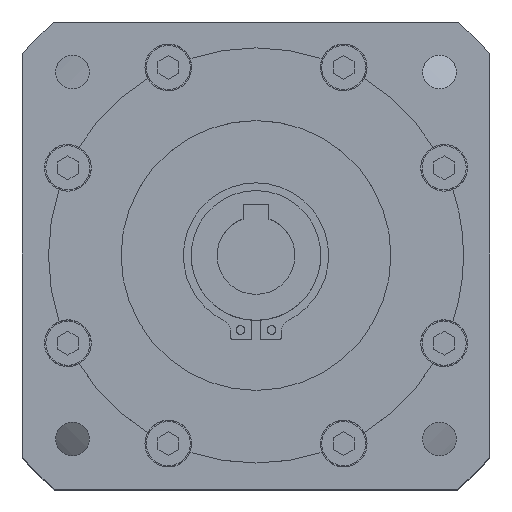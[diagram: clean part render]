
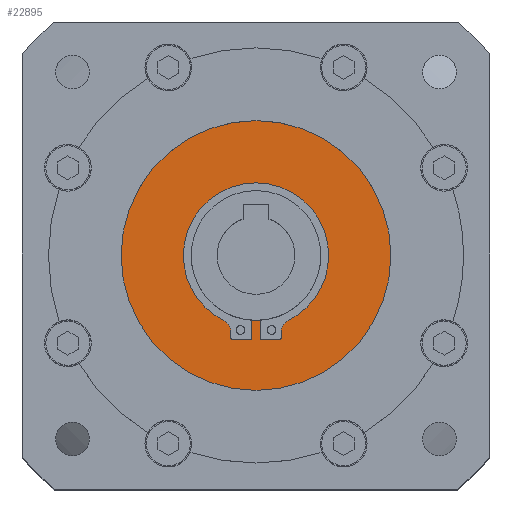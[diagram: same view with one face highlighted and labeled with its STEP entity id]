
A CAD part, top view. The second image highlights one B-rep face of the part: STEP entity #22895.
In plain terms, the highlighted planar face has unit normal (0, 0, 1).
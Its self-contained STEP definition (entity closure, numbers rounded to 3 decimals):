
#430 = FACE_BOUND ( 'NONE', #25090, .T. ) ;
#490 = CARTESIAN_POINT ( 'NONE',  ( -4.35, -16.271, -2.5 ) ) ;
#548 = VERTEX_POINT ( 'NONE', #15580 ) ;
#1082 = VERTEX_POINT ( 'NONE', #490 ) ;
#1635 = CARTESIAN_POINT ( 'NONE',  ( 0., 0., -2.5 ) ) ;
#1651 = CARTESIAN_POINT ( 'NONE',  ( 0.85, -16.271, -2.5 ) ) ;
#2053 = CARTESIAN_POINT ( 'NONE',  ( -4.85, -15.771, -2.5 ) ) ;
#2810 = ORIENTED_EDGE ( 'NONE', *, *, #15128, .F. ) ;
#2943 = CIRCLE ( 'NONE', #13542, 0.5 ) ;
#2988 = LINE ( 'NONE', #37324, #19984 ) ;
#3011 = VERTEX_POINT ( 'NONE', #3476 ) ;
#3012 = VECTOR ( 'NONE', #35305, 1000. ) ;
#3289 = CARTESIAN_POINT ( 'NONE',  ( -4.85, 0., -2.5 ) ) ;
#3476 = CARTESIAN_POINT ( 'NONE',  ( 26., 0., -2.5 ) ) ;
#4759 = LINE ( 'NONE', #15076, #39665 ) ;
#5053 = ORIENTED_EDGE ( 'NONE', *, *, #12363, .F. ) ;
#5058 = DIRECTION ( 'NONE',  ( -1., 0., 0. ) ) ;
#5681 = ORIENTED_EDGE ( 'NONE', *, *, #41594, .F. ) ;
#5701 = AXIS2_PLACEMENT_3D ( 'NONE', #37270, #17013, #40588 ) ;
#5704 = VECTOR ( 'NONE', #43348, 1000. ) ;
#5919 = CIRCLE ( 'NONE', #15960, 26. ) ;
#5961 = VERTEX_POINT ( 'NONE', #1651 ) ;
#5966 = ORIENTED_EDGE ( 'NONE', *, *, #37074, .F. ) ;
#7073 = VERTEX_POINT ( 'NONE', #38250 ) ;
#7420 = DIRECTION ( 'NONE',  ( 0., -1., 0. ) ) ;
#7440 = AXIS2_PLACEMENT_3D ( 'NONE', #38447, #18231, #41738 ) ;
#7805 = LINE ( 'NONE', #19714, #5704 ) ;
#7864 = CARTESIAN_POINT ( 'NONE',  ( 0., 0., -2.5 ) ) ;
#8188 = CIRCLE ( 'NONE', #43594, 12.5 ) ;
#8478 = CARTESIAN_POINT ( 'NONE',  ( 4.85, -14.773, -2.5 ) ) ;
#9015 = CIRCLE ( 'NONE', #40116, 26. ) ;
#11041 = CIRCLE ( 'NONE', #42052, 14. ) ;
#11117 = EDGE_CURVE ( 'NONE', #3011, #26673, #5919, .T. ) ;
#11272 = DIRECTION ( 'NONE',  ( 1., 0., 0. ) ) ;
#11501 = DIRECTION ( 'NONE',  ( 0., 0., -1. ) ) ;
#11892 = CARTESIAN_POINT ( 'NONE',  ( 4.85, 0., -2.5 ) ) ;
#12363 = EDGE_CURVE ( 'NONE', #7073, #26286, #21208, .T. ) ;
#12642 = CIRCLE ( 'NONE', #22548, 2.5 ) ;
#12977 = CIRCLE ( 'NONE', #15975, 14. ) ;
#13542 = AXIS2_PLACEMENT_3D ( 'NONE', #18082, #18070, #18019 ) ;
#14570 = VERTEX_POINT ( 'NONE', #36910 ) ;
#14953 = ORIENTED_EDGE ( 'NONE', *, *, #28900, .F. ) ;
#15076 = CARTESIAN_POINT ( 'NONE',  ( 0.85, 0., -2.5 ) ) ;
#15128 = EDGE_CURVE ( 'NONE', #18333, #548, #12642, .T. ) ;
#15580 = CARTESIAN_POINT ( 'NONE',  ( 6.236, -12.534, -2.5 ) ) ;
#15960 = AXIS2_PLACEMENT_3D ( 'NONE', #21024, #20980, #20955 ) ;
#15975 = AXIS2_PLACEMENT_3D ( 'NONE', #1635, #25374, #5058 ) ;
#16390 = DIRECTION ( 'NONE',  ( 0., 0., 1. ) ) ;
#16495 = CARTESIAN_POINT ( 'NONE',  ( 0., -16.271, -2.5 ) ) ;
#16680 = DIRECTION ( 'NONE',  ( 1., 0., 0. ) ) ;
#16932 = EDGE_CURVE ( 'NONE', #5961, #43699, #2988, .T. ) ;
#16941 = CARTESIAN_POINT ( 'NONE',  ( 14., 0., -2.5 ) ) ;
#17013 = DIRECTION ( 'NONE',  ( 0., 0., 1. ) ) ;
#17768 = EDGE_CURVE ( 'NONE', #43699, #14570, #2943, .T. ) ;
#17885 = EDGE_CURVE ( 'NONE', #1082, #41271, #18855, .T. ) ;
#18019 = DIRECTION ( 'NONE',  ( -1., 0., 0. ) ) ;
#18070 = DIRECTION ( 'NONE',  ( 0., 0., 1. ) ) ;
#18082 = CARTESIAN_POINT ( 'NONE',  ( 4.35, -15.771, -2.5 ) ) ;
#18231 = DIRECTION ( 'NONE',  ( 0., 0., 1. ) ) ;
#18321 = ORIENTED_EDGE ( 'NONE', *, *, #21759, .F. ) ;
#18333 = VERTEX_POINT ( 'NONE', #8478 ) ;
#18437 = FACE_OUTER_BOUND ( 'NONE', #20409, .T. ) ;
#18855 = LINE ( 'NONE', #16495, #25763 ) ;
#19696 = DIRECTION ( 'NONE',  ( 0., 0., 1. ) ) ;
#19714 = CARTESIAN_POINT ( 'NONE',  ( -0.85, 0., -2.5 ) ) ;
#19981 = ORIENTED_EDGE ( 'NONE', *, *, #24957, .F. ) ;
#19984 = VECTOR ( 'NONE', #37277, 1000. ) ;
#20409 = EDGE_LOOP ( 'NONE', ( #43288, #35549 ) ) ;
#20606 = EDGE_CURVE ( 'NONE', #26673, #3011, #9015, .T. ) ;
#20955 = DIRECTION ( 'NONE',  ( 1., 0., 0. ) ) ;
#20980 = DIRECTION ( 'NONE',  ( 0., 0., 1. ) ) ;
#21024 = CARTESIAN_POINT ( 'NONE',  ( 0., 0., -2.5 ) ) ;
#21031 = LINE ( 'NONE', #11892, #3012 ) ;
#21208 = CIRCLE ( 'NONE', #40553, 2.5 ) ;
#21529 = ORIENTED_EDGE ( 'NONE', *, *, #36626, .F. ) ;
#21571 = PLANE ( 'NONE',  #36565 ) ;
#21759 = EDGE_CURVE ( 'NONE', #31949, #7073, #11041, .T. ) ;
#22548 = AXIS2_PLACEMENT_3D ( 'NONE', #26019, #25978, #25970 ) ;
#22649 = ORIENTED_EDGE ( 'NONE', *, *, #16932, .F. ) ;
#22895 = ADVANCED_FACE ( 'NONE', ( #18437, #430 ), #21571, .F. ) ;
#24957 = EDGE_CURVE ( 'NONE', #33933, #1082, #26257, .T. ) ;
#25090 = EDGE_LOOP ( 'NONE', ( #19981, #29825, #5053, #18321, #5681, #25415, #2810, #5966, #38669, #22649, #40947, #14953, #21529, #35993 ) ) ;
#25374 = DIRECTION ( 'NONE',  ( 0., 0., 1. ) ) ;
#25415 = ORIENTED_EDGE ( 'NONE', *, *, #26267, .F. ) ;
#25763 = VECTOR ( 'NONE', #16680, 1000. ) ;
#25970 = DIRECTION ( 'NONE',  ( -1., 0., 0. ) ) ;
#25978 = DIRECTION ( 'NONE',  ( 0., 0., -1. ) ) ;
#26019 = CARTESIAN_POINT ( 'NONE',  ( 7.35, -14.773, -2.5 ) ) ;
#26257 = CIRCLE ( 'NONE', #5701, 0.5 ) ;
#26267 = EDGE_CURVE ( 'NONE', #548, #30322, #12977, .T. ) ;
#26286 = VERTEX_POINT ( 'NONE', #35542 ) ;
#26673 = VERTEX_POINT ( 'NONE', #31414 ) ;
#26942 = CARTESIAN_POINT ( 'NONE',  ( 0.85, -12.471, -2.5 ) ) ;
#27361 = CARTESIAN_POINT ( 'NONE',  ( 4.35, -16.271, -2.5 ) ) ;
#28457 = EDGE_CURVE ( 'NONE', #26286, #33933, #40846, .T. ) ;
#28900 = EDGE_CURVE ( 'NONE', #35606, #36805, #8188, .T. ) ;
#29825 = ORIENTED_EDGE ( 'NONE', *, *, #28457, .F. ) ;
#30322 = VERTEX_POINT ( 'NONE', #16941 ) ;
#30932 = VECTOR ( 'NONE', #7420, 1000. ) ;
#31414 = CARTESIAN_POINT ( 'NONE',  ( -26., 0., -2.5 ) ) ;
#31602 = DIRECTION ( 'NONE',  ( 0., 0., 1. ) ) ;
#31949 = VERTEX_POINT ( 'NONE', #35260 ) ;
#33933 = VERTEX_POINT ( 'NONE', #2053 ) ;
#34986 = CARTESIAN_POINT ( 'NONE',  ( -0.85, -16.271, -2.5 ) ) ;
#35205 = DIRECTION ( 'NONE',  ( -1., 0., 0. ) ) ;
#35260 = CARTESIAN_POINT ( 'NONE',  ( -14., 0., -2.5 ) ) ;
#35305 = DIRECTION ( 'NONE',  ( 0., 1., 0. ) ) ;
#35319 = DIRECTION ( 'NONE',  ( 0., -1., 0. ) ) ;
#35542 = CARTESIAN_POINT ( 'NONE',  ( -4.85, -14.773, -2.5 ) ) ;
#35549 = ORIENTED_EDGE ( 'NONE', *, *, #20606, .T. ) ;
#35606 = VERTEX_POINT ( 'NONE', #38699 ) ;
#35993 = ORIENTED_EDGE ( 'NONE', *, *, #17885, .F. ) ;
#36565 = AXIS2_PLACEMENT_3D ( 'NONE', #38420, #11501, #35205 ) ;
#36626 = EDGE_CURVE ( 'NONE', #41271, #35606, #7805, .T. ) ;
#36649 = CARTESIAN_POINT ( 'NONE',  ( 0., 0., -2.5 ) ) ;
#36805 = VERTEX_POINT ( 'NONE', #26942 ) ;
#36910 = CARTESIAN_POINT ( 'NONE',  ( 4.85, -15.771, -2.5 ) ) ;
#37074 = EDGE_CURVE ( 'NONE', #14570, #18333, #21031, .T. ) ;
#37270 = CARTESIAN_POINT ( 'NONE',  ( -4.35, -15.771, -2.5 ) ) ;
#37277 = DIRECTION ( 'NONE',  ( 1., 0., 0. ) ) ;
#37324 = CARTESIAN_POINT ( 'NONE',  ( 0., -16.271, -2.5 ) ) ;
#38250 = CARTESIAN_POINT ( 'NONE',  ( -6.236, -12.534, -2.5 ) ) ;
#38420 = CARTESIAN_POINT ( 'NONE',  ( 0., 0., -2.5 ) ) ;
#38447 = CARTESIAN_POINT ( 'NONE',  ( 0., 0., -2.5 ) ) ;
#38669 = ORIENTED_EDGE ( 'NONE', *, *, #17768, .F. ) ;
#38699 = CARTESIAN_POINT ( 'NONE',  ( -0.85, -12.471, -2.5 ) ) ;
#39665 = VECTOR ( 'NONE', #35319, 1000. ) ;
#39882 = CARTESIAN_POINT ( 'NONE',  ( 0., 0., -2.5 ) ) ;
#39981 = DIRECTION ( 'NONE',  ( -1., 0., 0. ) ) ;
#40116 = AXIS2_PLACEMENT_3D ( 'NONE', #7864, #31602, #11272 ) ;
#40553 = AXIS2_PLACEMENT_3D ( 'NONE', #42713, #42658, #42648 ) ;
#40588 = DIRECTION ( 'NONE',  ( -1., 0., 0. ) ) ;
#40846 = LINE ( 'NONE', #3289, #30932 ) ;
#40947 = ORIENTED_EDGE ( 'NONE', *, *, #43310, .F. ) ;
#41271 = VERTEX_POINT ( 'NONE', #34986 ) ;
#41309 = CIRCLE ( 'NONE', #7440, 14. ) ;
#41594 = EDGE_CURVE ( 'NONE', #30322, #31949, #41309, .T. ) ;
#41738 = DIRECTION ( 'NONE',  ( -1., 0., 0. ) ) ;
#42052 = AXIS2_PLACEMENT_3D ( 'NONE', #36649, #16390, #39981 ) ;
#42648 = DIRECTION ( 'NONE',  ( -1., 0., 0. ) ) ;
#42658 = DIRECTION ( 'NONE',  ( 0., 0., -1. ) ) ;
#42713 = CARTESIAN_POINT ( 'NONE',  ( -7.35, -14.773, -2.5 ) ) ;
#43178 = DIRECTION ( 'NONE',  ( -1., 0., 0. ) ) ;
#43288 = ORIENTED_EDGE ( 'NONE', *, *, #11117, .T. ) ;
#43310 = EDGE_CURVE ( 'NONE', #36805, #5961, #4759, .T. ) ;
#43348 = DIRECTION ( 'NONE',  ( 0., 1., 0. ) ) ;
#43594 = AXIS2_PLACEMENT_3D ( 'NONE', #39882, #19696, #43178 ) ;
#43699 = VERTEX_POINT ( 'NONE', #27361 ) ;
